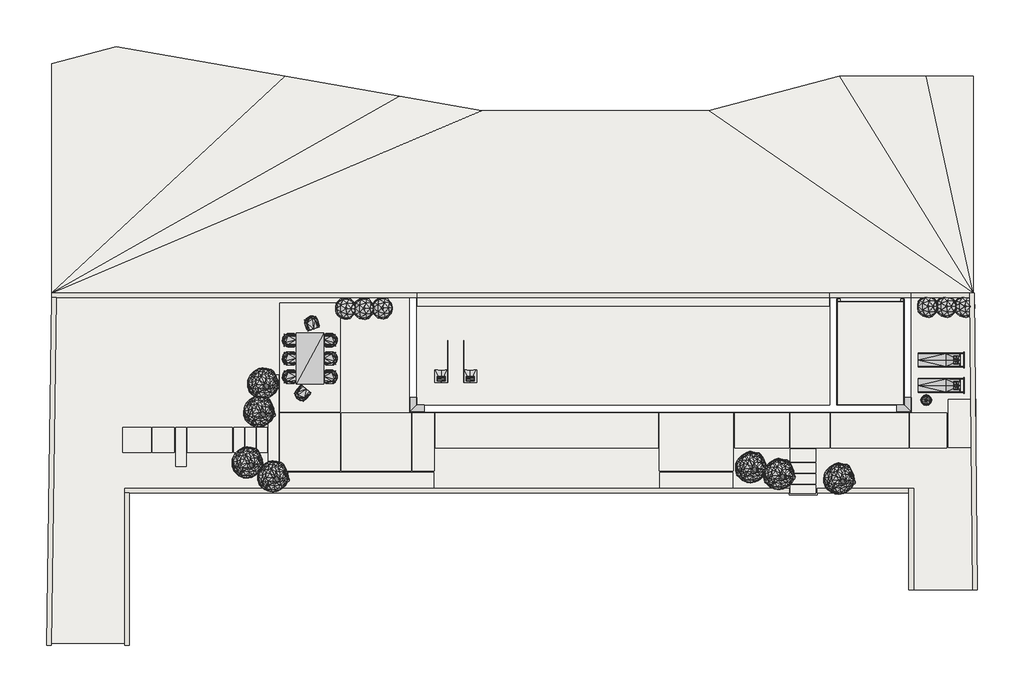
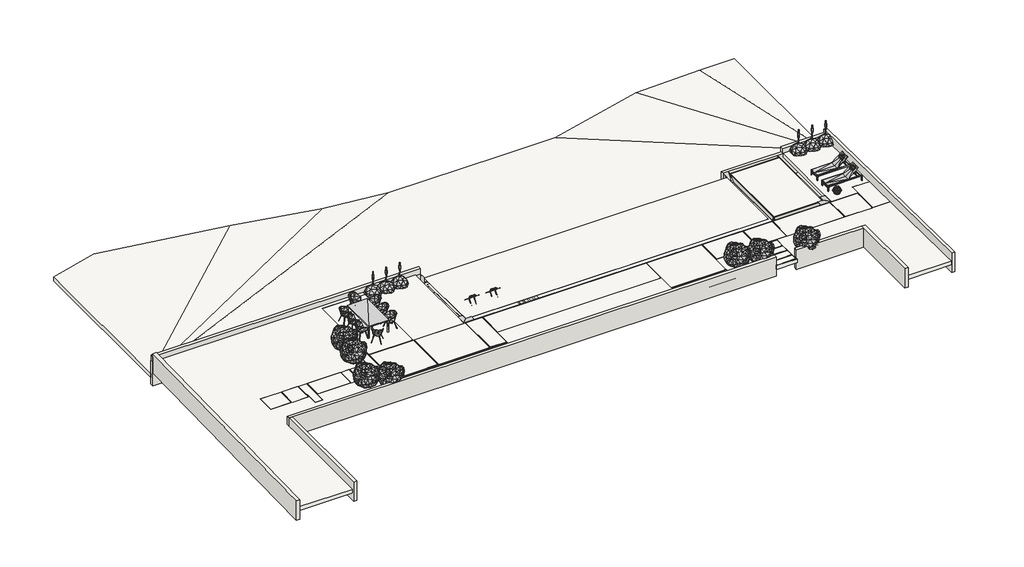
# One storey, incomplete: 27 geographic elements, 23 walls, 10 slabs, 2 proxies.
"""IFC4 building model written with IfcOpenShell, lengths in millimetres."""

from ifc_helpers import new_model, si_unit, frame, origin, place, context, project, spatial, polyline, outline, extrude, faceted_brep, transform, mapped, element, save
from components import generic_models_4be8d311, generic_models_a661fb60, geographic_element_90c88f6b, geographic_element_0c4992a3, enscape_assetdefinition_basket_enscape_assetdefinition_b8fa298a, enscape_assetdefinition_dining_table_08_enscape_2c41302c, enscape_assetdefinition_lounge_chair_09_enscape_42831ebe, enscape_assetdefinition_lounge_chair_09_enscape_dc3376f6, enscape_assetdefinition_sun_bed_03_enscape_assetdefinition_cf905068

model = new_model("IFC4")

# Units and contexts
model_context = context("Model", 3, world=origin())
ifc_project = project(units=[si_unit("LENGTHUNIT", "METRE", prefix="MILLI")], contexts=[model_context])

# Site, building, storey
site = spatial("IfcSite", under=ifc_project)
building = spatial("IfcBuilding", under=site)
storey = spatial("IfcBuildingStorey", under=building, Name="1_NPlaya", Elevation=0.0)

# Proxies
placement = place(None, origin())
generic_models_shape = generic_models_4be8d311(model_context)
element("IfcBuildingElementProxy", 1, Name="ROSA GRES_E62 : Pieza E62_Pietro_White_Anti-Slip", ObjectType="ROSA GRES_E62 : Pieza E62_Pietro_White_Anti-Slip", at=placement, inside=storey, context=model_context, shape_type="MappedRepresentation", body=[
    mapped(generic_models_shape, transform((-1514.0063414, 7472.0710771, 0.0), x_axis=(-1.0, 0.0, 0.0), y_axis=(0.0, -1.0, 0.0), z_axis=(0.0, 0.0, 1.0))),
])
generic_models_2_shape = generic_models_a661fb60(model_context)
element("IfcBuildingElementProxy", 2, Name="ROSA GRES_E62 : Pieza E62_Pietro_White_Anti-Slip", ObjectType="ROSA GRES_E62 : Pieza E62_Pietro_White_Anti-Slip", at=placement, inside=storey, context=model_context, shape_type="MappedRepresentation", body=[
    mapped(generic_models_2_shape, transform((20112.9831264, 7472.0710771, 0.0), x_axis=(1.0, 0.0, 0.0), y_axis=(0.0, 1.0, 0.0), z_axis=(0.0, 0.0, 1.0))),
])

# Geographic elements
geographic_element_shape = geographic_element_90c88f6b(model_context)
element("IfcGeographicElement", 3, ObjectType="Enscape AssetDefinition - Desert Spoon : Enscape AssetDefinition - Desert Spoon", at=placement, inside=storey, context=model_context, shape_type="MappedRepresentation", body=[
    mapped(geographic_element_shape, transform((22416.4883925, 12033.9123572, 0.0), x_axis=(1.0, 0.0, 0.0), y_axis=(0.0, 1.0, 0.0), z_axis=(0.0, 0.0, 1.0))),
])
element("IfcGeographicElement", 4, ObjectType="Enscape AssetDefinition - Desert Spoon : Enscape AssetDefinition - Desert Spoon", at=placement, inside=storey, context=model_context, shape_type="MappedRepresentation", body=[
    mapped(geographic_element_shape, transform((21616.4883925, 12033.9123572, 0.0), x_axis=(1.0, 0.0, 0.0), y_axis=(0.0, 1.0, 0.0), z_axis=(0.0, 0.0, 1.0))),
])
element("IfcGeographicElement", 5, ObjectType="Enscape AssetDefinition - Desert Spoon : Enscape AssetDefinition - Desert Spoon", at=placement, inside=storey, context=model_context, shape_type="MappedRepresentation", body=[
    mapped(geographic_element_shape, transform((20816.4883925, 12033.9123572, 0.0), x_axis=(1.0, 0.0, 0.0), y_axis=(0.0, 1.0, 0.0), z_axis=(0.0, 0.0, 1.0))),
])
element("IfcGeographicElement", 6, ObjectType="Enscape AssetDefinition - Desert Spoon : Enscape AssetDefinition - Desert Spoon", at=placement, inside=storey, context=model_context, shape_type="MappedRepresentation", body=[
    mapped(geographic_element_shape, transform((-4269.5116075, 11953.9123572, 0.0), x_axis=(1.0, 0.0, 0.0), y_axis=(0.0, 1.0, 0.0), z_axis=(0.0, 0.0, 1.0))),
])
element("IfcGeographicElement", 7, ObjectType="Enscape AssetDefinition - Desert Spoon : Enscape AssetDefinition - Desert Spoon", at=placement, inside=storey, context=model_context, shape_type="MappedRepresentation", body=[
    mapped(geographic_element_shape, transform((-3489.5116075, 11944.9123572, 0.0), x_axis=(1.0, 0.0, 0.0), y_axis=(0.0, 1.0, 0.0), z_axis=(0.0, 0.0, 1.0))),
])
element("IfcGeographicElement", 8, ObjectType="Enscape AssetDefinition - Desert Spoon : Enscape AssetDefinition - Desert Spoon", at=placement, inside=storey, context=model_context, shape_type="MappedRepresentation", body=[
    mapped(geographic_element_shape, transform((-2689.5116075, 11964.9123572, 0.0), x_axis=(1.0, 0.0, 0.0), y_axis=(0.0, 1.0, 0.0), z_axis=(0.0, 0.0, 1.0))),
])
geographic_element_2_shape = geographic_element_0c4992a3(model_context)
element("IfcGeographicElement", 9, ObjectType="Enscape AssetDefinition - Balm Bush : Enscape AssetDefinition - Balm Bush", at=placement, inside=storey, context=model_context, shape_type="MappedRepresentation", body=[
    mapped(geographic_element_2_shape, transform((-7409.5116075, 4776.5852365, 0.0), x_axis=(1.0, 0.0, 0.0), y_axis=(0.0, 1.0, 0.0), z_axis=(0.0, 0.0, 1.0))),
])
element("IfcGeographicElement", 10, ObjectType="Enscape AssetDefinition - Balm Bush : Enscape AssetDefinition - Balm Bush", at=placement, inside=storey, context=model_context, shape_type="MappedRepresentation", body=[
    mapped(geographic_element_2_shape, transform((-8509.5116075, 5376.5852365, 0.0), x_axis=(1.0, 0.0, 0.0), y_axis=(0.0, 1.0, 0.0), z_axis=(0.0, 0.0, 1.0))),
])
element("IfcGeographicElement", 11, ObjectType="Enscape AssetDefinition - Balm Bush : Enscape AssetDefinition - Balm Bush", at=placement, inside=storey, context=model_context, shape_type="MappedRepresentation", body=[
    mapped(geographic_element_2_shape, transform((-8009.5116075, 7576.5852365, 0.0), x_axis=(1.0, 0.0, 0.0), y_axis=(0.0, 1.0, 0.0), z_axis=(0.0, 0.0, 1.0))),
])
element("IfcGeographicElement", 12, ObjectType="Enscape AssetDefinition - Balm Bush : Enscape AssetDefinition - Balm Bush", at=placement, inside=storey, context=model_context, shape_type="MappedRepresentation", body=[
    mapped(geographic_element_2_shape, transform((-7843.0116075, 8785.5852365, 0.0), x_axis=(1.0, 0.0, 0.0), y_axis=(0.0, 1.0, 0.0), z_axis=(0.0, 0.0, 1.0))),
])
element("IfcGeographicElement", 13, ObjectType="Enscape AssetDefinition - Balm Bush : Enscape AssetDefinition - Balm Bush", at=placement, inside=storey, context=model_context, shape_type="MappedRepresentation", body=[
    mapped(geographic_element_2_shape, transform((13190.4883925, 5176.5852365, 0.0), x_axis=(1.0, 0.0, 0.0), y_axis=(0.0, 1.0, 0.0), z_axis=(0.0, 0.0, 1.0))),
])
element("IfcGeographicElement", 14, ObjectType="Enscape AssetDefinition - Balm Bush : Enscape AssetDefinition - Balm Bush", at=placement, inside=storey, context=model_context, shape_type="MappedRepresentation", body=[
    mapped(geographic_element_2_shape, transform((16990.4883925, 4676.5852365, 0.0), x_axis=(1.0, 0.0, 0.0), y_axis=(0.0, 1.0, 0.0), z_axis=(0.0, 0.0, 1.0))),
])
element("IfcGeographicElement", 15, ObjectType="Enscape AssetDefinition - Balm Bush : Enscape AssetDefinition - Balm Bush", at=placement, inside=storey, context=model_context, shape_type="MappedRepresentation", body=[
    mapped(geographic_element_2_shape, transform((14399.4883925, 4876.5852365, 0.0), x_axis=(1.0, 0.0, 0.0), y_axis=(0.0, 1.0, 0.0), z_axis=(0.0, 0.0, 1.0))),
])
enscape_assetdefinition_basket_enscape_assetdefinition_shape = enscape_assetdefinition_basket_enscape_assetdefinition_b8fa298a(model_context)
element("IfcGeographicElement", 16, ObjectType="Enscape AssetDefinition - Basket : Enscape AssetDefinition - Basket", at=placement, inside=storey, context=model_context, shape_type="MappedRepresentation", body=[
    mapped(enscape_assetdefinition_basket_enscape_assetdefinition_shape, transform((20758.270868, 7993.0852206, 0.0), x_axis=(1.0, 0.0, 0.0), y_axis=(0.0, 1.0, 0.0), z_axis=(0.0, 0.0, 1.0))),
])
enscape_assetdefinition_dining_table_08_enscape_shape = enscape_assetdefinition_dining_table_08_enscape_2c41302c(model_context)
element("IfcGeographicElement", 17, ObjectType="Enscape AssetDefinition - Dining Table 08 : Enscape AssetDefinition - Dining Table 08", at=placement, inside=storey, context=model_context, shape_type="MappedRepresentation", body=[
    mapped(enscape_assetdefinition_dining_table_08_enscape_shape, transform((-5809.5116075, 9789.5852365, 0.0), x_axis=(1.0, 0.0, 0.0), y_axis=(0.0, 1.0, 0.0), z_axis=(0.0, 0.0, 1.0))),
])
enscape_assetdefinition_lounge_chair_09_enscape_shape = enscape_assetdefinition_lounge_chair_09_enscape_42831ebe(model_context)
element("IfcGeographicElement", 18, ObjectType="Enscape AssetDefinition - Lounge Chair 09 : Enscape AssetDefinition - Lounge Chair 09", at=placement, inside=storey, context=model_context, shape_type="MappedRepresentation", body=[
    mapped(enscape_assetdefinition_lounge_chair_09_enscape_shape, transform((-6649.5116075, 8995.6118251, 0.0), x_axis=(0.0, 1.0, 0.0), y_axis=(-1.0, 0.0, 0.0), z_axis=(0.0, 0.0, 1.0))),
])
element("IfcGeographicElement", 19, ObjectType="Enscape AssetDefinition - Lounge Chair 09 : Enscape AssetDefinition - Lounge Chair 09", at=placement, inside=storey, context=model_context, shape_type="MappedRepresentation", body=[
    mapped(enscape_assetdefinition_lounge_chair_09_enscape_shape, transform((-6649.5116075, 10575.6118251, 0.0), x_axis=(0.0, 1.0, 0.0), y_axis=(-1.0, 0.0, 0.0), z_axis=(0.0, 0.0, 1.0))),
])
element("IfcGeographicElement", 20, ObjectType="Enscape AssetDefinition - Lounge Chair 09 : Enscape AssetDefinition - Lounge Chair 09", at=placement, inside=storey, context=model_context, shape_type="MappedRepresentation", body=[
    mapped(enscape_assetdefinition_lounge_chair_09_enscape_shape, transform((-6649.5116075, 9789.5852365, 0.0), x_axis=(0.0, 1.0, 0.0), y_axis=(-1.0, 0.0, 0.0), z_axis=(0.0, 0.0, 1.0))),
])
enscape_assetdefinition_lounge_chair_09_enscape_2_shape = enscape_assetdefinition_lounge_chair_09_enscape_dc3376f6(model_context)
element("IfcGeographicElement", 21, ObjectType="Enscape AssetDefinition - Lounge Chair 09 : Enscape AssetDefinition - Lounge Chair 09", at=placement, inside=storey, context=model_context, shape_type="MappedRepresentation", body=[
    mapped(enscape_assetdefinition_lounge_chair_09_enscape_2_shape, transform((-4969.5116075, 8995.6118251, 0.0), x_axis=(0.0, 1.0, 0.0), y_axis=(-1.0, 0.0, 0.0), z_axis=(0.0, 0.0, 1.0))),
])
element("IfcGeographicElement", 22, ObjectType="Enscape AssetDefinition - Lounge Chair 09 : Enscape AssetDefinition - Lounge Chair 09", at=placement, inside=storey, context=model_context, shape_type="MappedRepresentation", body=[
    mapped(enscape_assetdefinition_lounge_chair_09_enscape_2_shape, transform((-4969.5116075, 10575.6118251, 0.0), x_axis=(0.0, 1.0, 0.0), y_axis=(-1.0, 0.0, 0.0), z_axis=(0.0, 0.0, 1.0))),
])
element("IfcGeographicElement", 23, ObjectType="Enscape AssetDefinition - Lounge Chair 09 : Enscape AssetDefinition - Lounge Chair 09", at=placement, inside=storey, context=model_context, shape_type="MappedRepresentation", body=[
    mapped(enscape_assetdefinition_lounge_chair_09_enscape_2_shape, transform((-4969.5116075, 9789.5852365, 0.0), x_axis=(0.0, 1.0, 0.0), y_axis=(-1.0, 0.0, 0.0), z_axis=(0.0, 0.0, 1.0))),
])
element("IfcGeographicElement", 24, ObjectType="Enscape AssetDefinition - Lounge Chair 09 : Enscape AssetDefinition - Lounge Chair 09", at=placement, inside=storey, context=model_context, shape_type="MappedRepresentation", body=[
    mapped(enscape_assetdefinition_lounge_chair_09_enscape_2_shape, transform((-6116.4583733, 8304.6877272, 0.0), x_axis=(0.7568699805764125, -0.6535654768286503, 0.0), y_axis=(0.6535654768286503, 0.7568699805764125, 0.0), z_axis=(0.0, 0.0, 1.0))),
])
element("IfcGeographicElement", 25, ObjectType="Enscape AssetDefinition - Lounge Chair 09 : Enscape AssetDefinition - Lounge Chair 09", at=placement, inside=storey, context=model_context, shape_type="MappedRepresentation", body=[
    mapped(enscape_assetdefinition_lounge_chair_09_enscape_2_shape, transform((-5721.2555293, 11274.1474579, 0.0), x_axis=(-0.945518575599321, -0.3255681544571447, 0.0), y_axis=(0.3255681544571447, -0.945518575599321, 0.0), z_axis=(0.0, 0.0, 1.0))),
])
enscape_assetdefinition_sun_bed_03_enscape_assetdefinition_shape = enscape_assetdefinition_sun_bed_03_enscape_assetdefinition_cf905068(model_context)
element("IfcGeographicElement", 26, ObjectType="Enscape AssetDefinition - Sun Bed 03 : Enscape AssetDefinition - Sun Bed 03", at=placement, inside=storey, context=model_context, shape_type="MappedRepresentation", body=[
    mapped(enscape_assetdefinition_sun_bed_03_enscape_assetdefinition_shape, transform((-141.9622355, 9489.3514784, -450.0), x_axis=(-1.0, 0.0, 0.0), y_axis=(0.0, -1.0, 0.0), z_axis=(0.0, 0.0, 1.0))),
])
element("IfcGeographicElement", 27, ObjectType="Enscape AssetDefinition - Sun Bed 03 : Enscape AssetDefinition - Sun Bed 03", at=placement, inside=storey, context=model_context, shape_type="MappedRepresentation", body=[
    mapped(enscape_assetdefinition_sun_bed_03_enscape_assetdefinition_shape, transform((1098.0377645, 9489.3514784, -450.0), x_axis=(-1.0, 0.0, 0.0), y_axis=(0.0, -1.0, 0.0), z_axis=(0.0, 0.0, 1.0))),
])
element("IfcGeographicElement", 28, ObjectType="Enscape AssetDefinition - Sun Bed 03 : Enscape AssetDefinition - Sun Bed 03", at=placement, inside=storey, context=model_context, shape_type="MappedRepresentation", body=[
    mapped(enscape_assetdefinition_sun_bed_03_enscape_assetdefinition_shape, transform((21483.9357182, 9722.4417791, 0.0), x_axis=(0.0, -1.0, 0.0), y_axis=(1.0, 0.0, 0.0), z_axis=(0.0, 0.0, 1.0))),
])
element("IfcGeographicElement", 29, ObjectType="Enscape AssetDefinition - Sun Bed 03 : Enscape AssetDefinition - Sun Bed 03", at=placement, inside=storey, context=model_context, shape_type="MappedRepresentation", body=[
    mapped(enscape_assetdefinition_sun_bed_03_enscape_assetdefinition_shape, transform((21483.9357182, 8622.4417791, 0.0), x_axis=(0.0, -1.0, 0.0), y_axis=(1.0, 0.0, 0.0), z_axis=(0.0, 0.0, 1.0))),
])

# Slabs
element("IfcSlab", 30, ObjectType="GENÉRICO_HIERBA", at=placement, inside=storey, context=model_context, shape_type="SweptSolid", body=[
    extrude(outline(polyline([(20117.4883925, 12435.5852206), (22830.6157856, 12435.5852206), (22878.1438276, 8035.5852365), (21685.2129634, 8035.5852365), (21685.2129634, 5935.5852365), (22900.8276658, 5935.5852365), (22966.9890032, -189.4279496), (20114.4882541, -189.4279496), (20114.4882541, 4105.5852365), (16056.9883925, 4105.5852365), (16056.9883925, 3910.5852365), (14856.9883925, 3910.5852365), (14856.9883925, 4105.5852365), (12449.4883925, 4105.5852365), (12449.4883925, 4885.5852365), (9249.4883925, 4885.5852365), (9249.4883925, 4085.5852365), (-450.5116075, 4085.5852365), (-450.5116075, 4885.5852365), (-7100.5116075, 4885.5852365), (-7100.5116075, 4185.5852365), (-13800.5124193, 4185.5852365), (-13800.5124193, -2489.4148171), (-16961.4638816, -2489.4148171), (-16810.7319763, 12410.5852365), (-1518.0116075, 12410.5852365), (-1518.0116075, 7468.0852365), (20117.4883925, 7468.0852365), (20117.4883925, 12435.5852206)]), holes=[polyline([(21635.2129634, 7435.5852365), (20049.4883925, 7435.5852365), (20049.4883925, 5935.5852365), (21635.2129634, 5935.5852365), (21635.2129634, 7435.5852365)]), polyline([(19999.4883925, 7435.5852365), (16649.4883925, 7435.5852365), (16649.4883925, 5935.5852365), (19999.4883925, 5935.5852365), (19999.4883925, 7435.5852365)]), polyline([(14906.9883925, 7435.5852365), (14906.9883925, 5935.5852365), (16599.4883925, 5935.5852365), (16599.4883925, 7435.5852365), (14906.9883925, 7435.5852365)]), polyline([(12499.4883925, 7435.5852365), (12499.4883925, 5935.5852365), (14856.9883925, 5935.5852365), (14856.9883925, 7435.5852365), (12499.4883925, 7435.5852365)]), polyline([(12449.4883925, 7435.5852365), (9249.4883925, 7435.5852365), (9249.4883925, 4935.5852365), (12449.4883925, 4935.5852365), (12449.4883925, 7435.5852365)]), polyline([(9199.4883925, 5935.5852365), (9199.4883925, 7435.5852365), (-400.5116075, 7435.5852365), (-400.5116075, 5935.5852365), (9199.4883925, 5935.5852365)]), polyline([(-450.5116075, 7435.5852365), (-1400.5116075, 7435.5852365), (-1400.5116075, 4935.5852365), (-450.5116075, 4935.5852365), (-450.5116075, 7435.5852365)]), polyline([(-4450.5116075, 7435.5852365), (-4450.5116075, 4935.5852365), (-1450.5116075, 4935.5852365), (-1450.5116075, 7435.5852365), (-4450.5116075, 7435.5852365)]), polyline([(-7100.5116075, 7435.5852365), (-7100.5116075, 4935.5852365), (-4500.5116075, 4935.5852365), (-4500.5116075, 7435.5852365), (-7100.5116075, 7435.5852365)]), polyline([(-7150.5116075, 9085.5852365), (-7600.5116075, 9085.5852365), (-7600.5116075, 5335.5852365), (-7150.5116075, 5335.5852365), (-7150.5116075, 9085.5852365)]), polyline([(-4500.5116075, 12185.5852365), (-7100.5116075, 12185.5852365), (-7100.5116075, 7485.5852365), (-4500.5116075, 7485.5852365), (-4500.5116075, 12185.5852365)]), polyline([(-13872.3799331, 6810.5852365), (-13872.3799331, 5735.5852365), (-12650.5116075, 5735.5852365), (-12650.5116075, 6810.5852365), (-13872.3799331, 6810.5852365)]), polyline([(-12600.5116075, 5735.5852365), (-11650.5116075, 5735.5852365), (-11650.5116075, 6810.5852365), (-12600.5116075, 6810.5852365), (-12600.5116075, 5735.5852365)]), polyline([(-11600.5116075, 6810.5852365), (-11600.5116075, 5135.5852365), (-11150.5116075, 5135.5852365), (-11150.5116075, 6810.5852365), (-11600.5116075, 6810.5852365)]), polyline([(-11100.5116075, 6810.5852365), (-11100.5116075, 5735.5852365), (-9150.5116075, 5735.5852365), (-9150.5116075, 6810.5852365), (-11100.5116075, 6810.5852365)]), polyline([(-9100.5116075, 5735.5852365), (-8650.5116075, 5735.5852365), (-8650.5116075, 6810.5852365), (-9100.5116075, 6810.5852365), (-9100.5116075, 5735.5852365)]), polyline([(-8600.5116075, 6810.5852365), (-8600.5116075, 5735.5852365), (-8150.5116075, 5735.5852365), (-8150.5116075, 6810.5852365), (-8600.5116075, 6810.5852365)]), polyline([(-7650.5116075, 5735.5852365), (-7650.5116075, 6810.5852365), (-8100.5116075, 6810.5852365), (-8100.5116075, 5735.5852365), (-7650.5116075, 5735.5852365)]), polyline([(16006.9883925, 5879.2855999), (14906.9883925, 5879.2855999), (14906.9883925, 5335.5852365), (16006.9883925, 5335.5852365), (16006.9883925, 5879.2855999)]), polyline([(14906.9883925, 4860.5852365), (16006.9883925, 4860.5852365), (16006.9883925, 5285.5852365), (14906.9883925, 5285.5852365), (14906.9883925, 4860.5852365)]), polyline([(16006.9883925, 4385.5852365), (16006.9883925, 4810.5852365), (14906.9883925, 4810.5852365), (14906.9883925, 4385.5852365), (16006.9883925, 4385.5852365)]), polyline([(16006.9883925, 3965.5852365), (16006.9883925, 4335.5852365), (14906.9883925, 4335.5852365), (14906.9883925, 3965.5852365), (16006.9883925, 3965.5852365)])]), frame((0.0, 0.0, -231.0), z_axis=(0.0, 0.0, 1.0), x_axis=(1.0, 0.0, 0.0)), (0.0, 0.0, 1.0), 231.0),
])
element("IfcSlab", 31, ObjectType="Pieza 316_Patrón 1/3_Pietro_White_Anti-Slip", at=placement, inside=storey, context=model_context, shape_type="SweptSolid", body=[
    extrude(outline(polyline([(-4500.5116075, 7435.5852365), (-4500.5116075, 4935.5852365), (-7100.5116075, 4935.5852365), (-7100.5116075, 7435.5852365), (-4500.5116075, 7435.5852365)])), frame((0.0, 0.0, -9.0), z_axis=(0.0, 0.0, 1.0), x_axis=(1.0, 0.0, 0.0)), (0.0, 0.0, 1.0), 9.0),
    extrude(outline(polyline([(-1450.5116075, 4935.5852365), (-4450.5116075, 4935.5852365), (-4450.5116075, 7435.5852365), (-1450.5116075, 7435.5852365), (-1450.5116075, 4935.5852365)])), frame((0.0, 0.0, -9.0), z_axis=(0.0, 0.0, 1.0), x_axis=(1.0, 0.0, 0.0)), (0.0, 0.0, 1.0), 9.0),
    extrude(outline(polyline([(-450.5116075, 7435.5852365), (-450.5116075, 4935.5852365), (-1400.5116075, 4935.5852365), (-1400.5116075, 7435.5852365), (-450.5116075, 7435.5852365)])), frame((0.0, 0.0, -9.0), z_axis=(0.0, 0.0, 1.0), x_axis=(1.0, 0.0, 0.0)), (0.0, 0.0, 1.0), 9.0),
    extrude(outline(polyline([(9199.4883925, 7435.5852365), (9199.4883925, 5935.5852365), (-400.5116075, 5935.5852365), (-400.5116075, 7435.5852365), (9199.4883925, 7435.5852365)])), frame((0.0, 0.0, -9.0), z_axis=(0.0, 0.0, 1.0), x_axis=(1.0, 0.0, 0.0)), (0.0, 0.0, 1.0), 9.0),
    extrude(outline(polyline([(12449.4883925, 4935.5852365), (9249.4883925, 4935.5852365), (9249.4883925, 7435.5852365), (12449.4883925, 7435.5852365), (12449.4883925, 4935.5852365)])), frame((0.0, 0.0, -9.0), z_axis=(0.0, 0.0, 1.0), x_axis=(1.0, 0.0, 0.0)), (0.0, 0.0, 1.0), 9.0),
    extrude(outline(polyline([(14856.9883925, 7435.5852365), (14856.9883925, 5935.5852365), (12499.4883925, 5935.5852365), (12499.4883925, 7435.5852365), (14856.9883925, 7435.5852365)])), frame((0.0, 0.0, -9.0), z_axis=(0.0, 0.0, 1.0), x_axis=(1.0, 0.0, 0.0)), (0.0, 0.0, 1.0), 9.0),
    extrude(outline(polyline([(14906.9883925, 7435.5852365), (16599.4883925, 7435.5852365), (16599.4883925, 5935.5852365), (14906.9883925, 5935.5852365), (14906.9883925, 7435.5852365)])), frame((0.0, 0.0, -9.0), z_axis=(0.0, 0.0, 1.0), x_axis=(1.0, 0.0, 0.0)), (0.0, 0.0, 1.0), 9.0),
    extrude(outline(polyline([(19999.4883925, 7435.5852365), (19999.4883925, 5935.5852365), (16649.4883925, 5935.5852365), (16649.4883925, 7435.5852365), (19999.4883925, 7435.5852365)])), frame((0.0, 0.0, -9.0), z_axis=(0.0, 0.0, 1.0), x_axis=(1.0, 0.0, 0.0)), (0.0, 0.0, 1.0), 9.0),
    extrude(outline(polyline([(21635.2129634, 7435.5852365), (21635.2129634, 5935.5852365), (20049.4883925, 5935.5852365), (20049.4883925, 7435.5852365), (21635.2129634, 7435.5852365)])), frame((0.0, 0.0, -9.0), z_axis=(0.0, 0.0, 1.0), x_axis=(1.0, 0.0, 0.0)), (0.0, 0.0, 1.0), 9.0),
    extrude(outline(polyline([(22900.8276658, 8035.5852365), (22900.8276658, 5935.5852365), (21685.2129634, 5935.5852365), (21685.2129634, 8035.5852365), (22900.8276658, 8035.5852365)])), frame((0.0, 0.0, -9.0), z_axis=(0.0, 0.0, 1.0), x_axis=(1.0, 0.0, 0.0)), (0.0, 0.0, 1.0), 9.0),
    extrude(outline(polyline([(16006.9883925, 5879.2855999), (16006.9883925, 5335.5852365), (14906.9883925, 5335.5852365), (14906.9883925, 5879.2855999), (16006.9883925, 5879.2855999)])), frame((0.0, 0.0, -9.0), z_axis=(0.0, 0.0, 1.0), x_axis=(1.0, 0.0, 0.0)), (0.0, 0.0, 1.0), 9.0),
    extrude(outline(polyline([(16006.9883925, 5285.5852365), (16006.9883925, 4860.5852365), (14906.9883925, 4860.5852365), (14906.9883925, 5285.5852365), (16006.9883925, 5285.5852365)])), frame((0.0, 0.0, -9.0), z_axis=(0.0, 0.0, 1.0), x_axis=(1.0, 0.0, 0.0)), (0.0, 0.0, 1.0), 9.0),
    extrude(outline(polyline([(16006.9883925, 4810.5852365), (16006.9883925, 4385.5852365), (14906.9883925, 4385.5852365), (14906.9883925, 4810.5852365), (16006.9883925, 4810.5852365)])), frame((0.0, 0.0, -9.0), z_axis=(0.0, 0.0, 1.0), x_axis=(1.0, 0.0, 0.0)), (0.0, 0.0, 1.0), 9.0),
    extrude(outline(polyline([(16006.9883925, 4335.5852365), (16006.9883925, 3965.5852365), (14906.9883925, 3965.5852365), (14906.9883925, 4335.5852365), (16006.9883925, 4335.5852365)])), frame((0.0, 0.0, -9.0), z_axis=(0.0, 0.0, 1.0), x_axis=(1.0, 0.0, 0.0)), (0.0, 0.0, 1.0), 9.0),
    extrude(outline(polyline([(12449.4883925, 4885.5852365), (12449.4883925, 3985.5852365), (9249.4883925, 3985.5852365), (9249.4883925, 4885.5852365), (12449.4883925, 4885.5852365)])), frame((0.0, 0.0, -9.0), z_axis=(0.0, 0.0, 1.0), x_axis=(1.0, 0.0, 0.0)), (0.0, 0.0, 1.0), 9.0),
    extrude(outline(polyline([(-450.5116075, 4885.5852365), (-450.5116075, 3985.5852365), (-7100.5116075, 3985.5852365), (-7100.5116075, 4885.5852365), (-450.5116075, 4885.5852365)])), frame((0.0, 0.0, -9.0), z_axis=(0.0, 0.0, 1.0), x_axis=(1.0, 0.0, 0.0)), (0.0, 0.0, 1.0), 9.0),
    extrude(outline(polyline([(-4500.5116075, 12185.5852365), (-4500.5116075, 7485.5852365), (-7100.5116075, 7485.5852365), (-7100.5116075, 12185.5852365), (-4500.5116075, 12185.5852365)])), frame((0.0, 0.0, -9.0), z_axis=(0.0, 0.0, 1.0), x_axis=(1.0, 0.0, 0.0)), (0.0, 0.0, 1.0), 9.0),
    extrude(outline(polyline([(-7600.5116075, 9085.5852365), (-7150.5116075, 9085.5852365), (-7150.5116075, 5335.5852365), (-7600.5116075, 5335.5852365), (-7600.5116075, 9085.5852365)])), frame((0.0, 0.0, -9.0), z_axis=(0.0, 0.0, 1.0), x_axis=(1.0, 0.0, 0.0)), (0.0, 0.0, 1.0), 9.0),
    extrude(outline(polyline([(-7650.5116075, 6810.5852365), (-7650.5116075, 5735.5852365), (-8100.5116075, 5735.5852365), (-8100.5116075, 6810.5852365), (-7650.5116075, 6810.5852365)])), frame((0.0, 0.0, -9.0), z_axis=(0.0, 0.0, 1.0), x_axis=(1.0, 0.0, 0.0)), (0.0, 0.0, 1.0), 9.0),
    extrude(outline(polyline([(-8150.5116075, 6810.5852365), (-8150.5116075, 5735.5852365), (-8600.5116075, 5735.5852365), (-8600.5116075, 6810.5852365), (-8150.5116075, 6810.5852365)])), frame((0.0, 0.0, -9.0), z_axis=(0.0, 0.0, 1.0), x_axis=(1.0, 0.0, 0.0)), (0.0, 0.0, 1.0), 9.0),
    extrude(outline(polyline([(-9100.5116075, 5735.5852365), (-9100.5116075, 6810.5852365), (-8650.5116075, 6810.5852365), (-8650.5116075, 5735.5852365), (-9100.5116075, 5735.5852365)])), frame((0.0, 0.0, -9.0), z_axis=(0.0, 0.0, 1.0), x_axis=(1.0, 0.0, 0.0)), (0.0, 0.0, 1.0), 9.0),
    extrude(outline(polyline([(-9150.5116075, 6810.5852365), (-9150.5116075, 5735.5852365), (-11100.5116075, 5735.5852365), (-11100.5116075, 6810.5852365), (-9150.5116075, 6810.5852365)])), frame((0.0, 0.0, -9.0), z_axis=(0.0, 0.0, 1.0), x_axis=(1.0, 0.0, 0.0)), (0.0, 0.0, 1.0), 9.0),
    extrude(outline(polyline([(-11150.5116075, 6810.5852365), (-11150.5116075, 5135.5852365), (-11600.5116075, 5135.5852365), (-11600.5116075, 6810.5852365), (-11150.5116075, 6810.5852365)])), frame((0.0, 0.0, -9.0), z_axis=(0.0, 0.0, 1.0), x_axis=(1.0, 0.0, 0.0)), (0.0, 0.0, 1.0), 9.0),
    extrude(outline(polyline([(-12650.5116075, 6810.5852365), (-12650.5116075, 5735.5852365), (-13872.3799331, 5735.5852365), (-13872.3799331, 6810.5852365), (-12650.5116075, 6810.5852365)])), frame((0.0, 0.0, -9.0), z_axis=(0.0, 0.0, 1.0), x_axis=(1.0, 0.0, 0.0)), (0.0, 0.0, 1.0), 9.0),
    extrude(outline(polyline([(-11650.5116075, 6810.5852365), (-11650.5116075, 5735.5852365), (-12600.5116075, 5735.5852365), (-12600.5116075, 6810.5852365), (-11650.5116075, 6810.5852365)])), frame((0.0, 0.0, -9.0), z_axis=(0.0, 0.0, 1.0), x_axis=(1.0, 0.0, 0.0)), (0.0, 0.0, 1.0), 9.0),
])
element("IfcSlab", 32, ObjectType="Pieza 316_Patrón 1/3_Pietro_White_Anti-Slip", at=placement, inside=storey, context=model_context, shape_type="SweptSolid", body=[
    extrude(outline(polyline([(1983.9883925, 11755.5586479), (1983.9883925, 7815.6118251), (-1170.485019, 7815.6118251), (-1170.485019, 11755.5586479), (1983.9883925, 11755.5586479)])), frame((0.0, 0.0, -309.0), z_axis=(0.0, 0.0, 1.0), x_axis=(1.0, 0.0, 0.0)), (0.0, 0.0, 1.0), 9.0),
])
element("IfcSlab", 33, ObjectType="Pieza 316_Patrón 1/3_Pietro_White_Anti-Slip", at=placement, inside=storey, context=model_context, shape_type="SweptSolid", body=[
    extrude(outline(polyline([(2983.9883925, 11785.5852365), (2983.9883925, 7785.5852365), (2799.4883925, 7785.5852365), (2799.4883925, 11785.5852365), (2983.9883925, 11785.5852365)])), frame((0.0, 0.0, -909.0), z_axis=(0.0, 0.0, 1.0), x_axis=(1.0, 0.0, 0.0)), (0.0, 0.0, 1.0), 9.0),
])
element("IfcSlab", 34, ObjectType="Pieza 316_Patrón 1/3_Pietro_White_Anti-Slip", at=placement, inside=storey, context=model_context, shape_type="SweptSolid", body=[
    extrude(outline(polyline([(2483.9649492, 11785.5852365), (2483.9649492, 7785.5852365), (2299.4883925, 7785.5852365), (2299.4883925, 11785.5852365), (2483.9649492, 11785.5852365)])), frame((0.0, 0.0, -609.0), z_axis=(0.0, 0.0, 1.0), x_axis=(1.0, 0.0, 0.0)), (0.0, 0.0, 1.0), 9.0),
])
element("IfcSlab", 35, ObjectType="Pieza 316_Patrón 1/3_Pietro_White_Anti-Slip", at=placement, inside=storey, context=model_context, shape_type="SweptSolid", body=[
    extrude(outline(polyline([(19661.4913366, 12096.9631648), (19661.4913366, 7924.774778), (17063.3935432, 7924.774778), (17063.3935432, 12096.9631648), (19661.4913366, 12096.9631648)]), holes=[polyline([(19198.270868, 11639.9602206), (17520.3964874, 11639.9602206), (17520.3964874, 8376.1527221), (19198.270868, 8376.1527221), (19198.270868, 11639.9602206)])]), frame((0.0, 0.0, -559.0), z_axis=(0.0, 0.0, 1.0), x_axis=(1.0, 0.0, 0.0)), (0.0, 0.0, 1.0), 9.0),
])
element("IfcSlab", 36, ObjectType="Pieza 316_Patrón 1/3_Pietro_White_Anti-Slip", at=placement, inside=storey, context=model_context, shape_type="SweptSolid", body=[
    extrude(outline(polyline([(19230.7230046, 11672.4123572), (19230.7230046, 8344.3255855), (17487.9443508, 8344.3255855), (17487.9443508, 11672.4123572), (19230.7230046, 11672.4123572)])), frame((0.0, 0.0, -1009.0), z_axis=(0.0, 0.0, 1.0), x_axis=(1.0, 0.0, 0.0)), (0.0, 0.0, 1.0), 9.0),
])
element("IfcSlab", 37, ObjectType="GENÉRICO_ARENA", at=placement, inside=storey, context=model_context, shape_type="Brep", body=[
    faceted_brep([(22777.1253533, 12611.5251315, -1081.0), (22777.1253533, 12611.5251315, -850.0), (-16946.0773021, 12611.5251315, -850.0), (-16946.0773021, 12611.5251315, -1081.0), (-16946.0773021, 22500.5978496, -850.0), (-16946.0773021, 22500.5978496, -1081.0), (22777.1253533, 21970.9679868, -1081.0), (22777.1253533, 21970.9679868, -850.0), (-14164.5442885, 23245.9073743, -850.0), (-14164.5442885, 23245.9073743, -1081.0), (-6876.9669162, 21960.9108596, -850.0), (-6876.9669162, 21960.9108596, -1081.0), (-1952.9281511, 21092.6699713, -974.152795), (-1952.9281511, 21092.6699713, -1205.152795), (1592.3797597, 20467.5365317, -850.0), (1592.3797597, 20467.5365317, -1081.0), (8192.3797597, 20467.5365317, -850.0), (8192.3797597, 20467.5365317, -1081.0), (11392.3797597, 20467.5365317, -850.0), (11392.3797597, 20467.5365317, -1081.0), (17003.2623361, 21970.9679868, -932.6575138), (17003.2623361, 21970.9679868, -1163.6575138), (20751.6941926, 21970.9679868, -850.0), (20751.6941926, 21970.9679868, -1081.0)], [[[0, 1, 2, 3]], [[3, 2, 4, 5]], [[6, 7, 1, 0]], [[5, 4, 8, 9]], [[9, 8, 10, 11]], [[11, 10, 12, 13]], [[13, 12, 14, 15]], [[15, 14, 16, 17]], [[17, 16, 18, 19]], [[19, 18, 20, 21]], [[21, 20, 22, 23]], [[23, 22, 7, 6]], [[7, 22, 1]], [[6, 0, 23]], [[14, 12, 2]], [[12, 10, 2]], [[10, 8, 4, 2]], [[15, 3, 13]], [[13, 3, 11]], [[11, 3, 5, 9]], [[18, 16, 14, 2, 1]], [[20, 18, 1]], [[22, 20, 1]], [[19, 0, 3, 15, 17]], [[21, 0, 19]], [[23, 0, 21]]]),
])
element("IfcSlab", 38, ObjectType="GENÉRICO_AGUA", at=placement, inside=storey, context=model_context, shape_type="SweptSolid", body=[
    extrude(outline(polyline([(16601.9883925, 12025.0880815), (16601.9883925, 7785.5852365), (-1200.5116075, 7785.5852365), (-1200.5116075, 12025.0880815), (16601.9883925, 12025.0880815)])), frame((0.0, 0.0, -51.0), z_axis=(0.0, 0.0, 1.0), x_axis=(1.0, 0.0, 0.0)), (0.0, 0.0, 1.0), 1.0),
    extrude(outline(polyline([(19810.2887715, 12235.1051769), (19810.2887715, 7774.0593078), (16916.4883925, 7774.0593078), (16916.4883925, 12235.1051769), (19810.2887715, 12235.1051769)])), frame((0.0, 0.0, -51.0), z_axis=(0.0, 0.0, 1.0), x_axis=(1.0, 0.0, 0.0)), (0.0, 0.0, 1.0), 1.0),
])
element("IfcSlab", 39, ObjectType="GENÉRICO_AGUA", at=placement, inside=storey, context=model_context, shape_type="SweptSolid", body=[
    extrude(outline(polyline([(16599.4883925, 12402.5251315), (16599.4883925, 12033.9123572), (-1200.5116075, 12033.9123572), (-1200.5116075, 12402.5251315), (16599.4883925, 12402.5251315)])), frame((0.0, 0.0, -701.0), z_axis=(0.0, 0.0, 1.0), x_axis=(1.0, 0.0, 0.0)), (0.0, 0.0, 1.0), 1.0),
])

# Walls
element("IfcWall", 40, ObjectType="GENÉRICO_MURO BASE 20 cm", at=placement, inside=storey, context=model_context, shape_type="SweptSolid", body=[
    extrude(outline(polyline([(-16935.9886711, 12610.5852365), (-1200.5116075, 12610.5852365), (-1200.5116075, 12410.5852365), (-16938.9692743, 12410.5852365), (-16935.9886711, 12610.5852365)])), frame((0.0, 0.0, -49.1675374), z_axis=(0.0, 0.0, 1.0), x_axis=(1.0, 0.0, 0.0)), (0.0, 0.0, 1.0), 350.0),
])
element("IfcWall", 41, ObjectType="Pieza 316_Patrón 1/3_Pietro_White_Anti-Slip", at=placement, inside=storey, context=model_context, shape_type="SweptSolid", body=[
    extrude(outline(polyline([(3790.4883925, 7785.5852365), (3790.4883925, 11785.5852365), (3799.4883925, 11785.5852365), (3799.4883925, 7785.5852365), (3790.4883925, 7785.5852365)])), frame((0.0, 0.0, -1469.9734114), z_axis=(0.0, 0.0, 1.0), x_axis=(1.0, 0.0, 0.0)), (0.0, 0.0, 1.0), 233.399532),
])
element("IfcWall", 42, ObjectType="Pieza 316_Patrón 1/3_Pietro_White_Anti-Slip", at=placement, inside=storey, context=model_context, shape_type="SweptSolid", body=[
    extrude(outline(polyline([(3290.4883925, 7785.5852365), (3290.4883925, 11785.5852365), (3299.4883925, 11785.5852365), (3299.4883925, 7785.5852365), (3290.4883925, 7785.5852365)])), frame((0.0, 0.0, -1169.9734114), z_axis=(0.0, 0.0, 1.0), x_axis=(1.0, 0.0, 0.0)), (0.0, 0.0, 1.0), 232.3681087),
])
element("IfcWall", 43, ObjectType="Pieza 316_Patrón 1/3_Pietro_White_Anti-Slip", at=placement, inside=storey, context=model_context, shape_type="SweptSolid", body=[
    extrude(outline(polyline([(2790.4883925, 7785.5852365), (2790.4883925, 11785.5852365), (2799.4883925, 11785.5852365), (2799.4883925, 7785.5852365), (2790.4883925, 7785.5852365)])), frame((0.0, 0.0, -869.9734114), z_axis=(0.0, 0.0, 1.0), x_axis=(1.0, 0.0, 0.0)), (0.0, 0.0, 1.0), 231.4871558),
])
element("IfcWall", 44, ObjectType="Pieza 316_Patrón 1/3_Pietro_White_Anti-Slip", at=placement, inside=storey, context=model_context, shape_type="SweptSolid", body=[
    extrude(outline(polyline([(2290.4883925, 7785.5852365), (2290.4883925, 11785.5852365), (2299.4883925, 11785.5852365), (2299.4883925, 7785.5852365), (2290.4883925, 7785.5852365)])), frame((0.0, 0.0, -576.5358849), z_axis=(0.0, 0.0, 1.0), x_axis=(1.0, 0.0, 0.0)), (0.0, 0.0, 1.0), 245.5600671),
])
element("IfcWall", 45, ObjectType="Pieza 316_Patrón 1/3_Pietro_White_Anti-Slip", at=placement, inside=storey, context=model_context, shape_type="SweptSolid", body=[
    extrude(outline(polyline([(-529.9048125, 17058.0090539), (-12.087635, 16919.2603594), (-12.087635, 16909.9428738), (-529.9048125, 17048.6915683), (-529.9048125, 17058.0090539)])), frame((0.0, 7785.5852365, 0.0), z_axis=(0.0, 1.0, 0.0), x_axis=(0.0, 0.0, 1.0)), (0.0, 0.0, 1.0), 4570.0),
])
element("IfcWall", 46, ObjectType="Pieza 316_Patrón 1/3_Pietro_White_Anti-Slip", at=placement, inside=storey, context=model_context, shape_type="SweptSolid", body=[
    extrude(outline(polyline([(12103.8017201, -524.4781643), (12235.1051769, -34.4469924), (12244.4226625, -34.4469924), (12113.1192057, -524.4781643), (12103.8017201, -524.4781643)])), frame((16916.4883925, 0.0, 0.0), z_axis=(1.0, 0.0, 0.0), x_axis=(0.0, 1.0, 0.0)), (0.0, 0.0, 1.0), 2883.0),
])
element("IfcWall", 47, ObjectType="Pieza 316_Patrón 1/3_Pietro_White_Anti-Slip", at=placement, inside=storey, context=model_context, shape_type="SweptSolid", body=[
    extrude(outline(polyline([(-524.4781643, 19668.3298919), (-524.4781643, 19677.6473775), (-35.0, 19808.8026564), (-35.0, 19799.4851707), (-524.4781643, 19668.3298919)])), frame((0.0, 7776.8989004, 0.0), z_axis=(0.0, 1.0, 0.0), x_axis=(0.0, 0.0, 1.0)), (0.0, 0.0, 1.0), 4578.6863361),
])
element("IfcWall", 48, ObjectType="Pieza 316_Patrón 1/3_Pietro_White_Anti-Slip", at=placement, inside=storey, context=model_context, shape_type="SweptSolid", body=[
    extrude(outline(polyline([(7908.6187371, -524.4781643), (7777.4634582, -35.0), (7786.7809439, -35.0), (7917.9362227, -524.4781643), (7908.6187371, -524.4781643)])), frame((16895.420249, 0.0, 0.0), z_axis=(1.0, 0.0, 0.0), x_axis=(0.0, 1.0, 0.0)), (0.0, 0.0, 1.0), 2910.0),
])
element("IfcWall", 49, ObjectType="Pieza 316_Patrón 1/3_Pietro_White_Anti-Slip", at=placement, inside=storey, context=model_context, shape_type="Brep", body=[
    faceted_brep([(19167.8456175, 8407.2029726, -590.6131618), (19277.5404902, 8297.5080999, -1000.0), (19277.5404902, 11719.2298429, -1000.0), (19167.8456175, 11609.5349702, -590.6131618), (19268.2230046, 8297.5080999, -1000.0), (19158.5281319, 8407.2029726, -590.6131618), (19158.5281319, 11609.5349702, -590.6131618), (19268.2230046, 11719.2298429, -1000.0), (19268.2230046, 11709.9123572, -1000.0), (19268.2230046, 8306.8255855, -1000.0)], [[[0, 1, 2, 3]], [[4, 5, 6, 7, 8, 9]], [[1, 4, 9, 8, 7, 2]], [[5, 0, 3, 6]], [[7, 6, 3, 2]], [[4, 1, 0, 5]]]),
])
element("IfcWall", 50, ObjectType="Pieza 316_Patrón 1/3_Pietro_White_Anti-Slip", at=placement, inside=storey, context=model_context, shape_type="Brep", body=[
    faceted_brep([(19158.3638357, 11609.370674, -590.0), (19158.5281319, 11609.5349702, -590.6131618), (19268.2230046, 11719.2298429, -1000.0), (17441.1268651, 11719.2298429, -1000.0), (17550.986034, 11609.370674, -590.0), (19268.2230046, 11709.9123572, -1000.0), (19158.3638357, 11600.0531883, -590.0), (17550.986034, 11600.0531883, -590.0), (17550.6453455, 11600.3938769, -591.2714671), (17441.1268651, 11709.9123572, -1000.0), (17450.4443508, 11709.9123572, -1000.0)], [[[0, 1, 2, 3, 4]], [[5, 6, 7, 8, 9, 10]], [[2, 5, 10, 9, 3]], [[6, 0, 4, 7]], [[9, 8, 7, 4, 3]], [[5, 2, 1, 0, 6]]]),
])
element("IfcWall", 51, ObjectType="Pieza 316_Patrón 1/3_Pietro_White_Anti-Slip", at=placement, inside=storey, context=model_context, shape_type="Brep", body=[
    faceted_brep([(17550.6453455, 11600.3938769, -591.2714671), (17441.1268651, 11709.9123572, -1000.0), (17441.1268651, 8297.5080999, -1000.0), (17550.6453455, 8407.0265802, -591.2714671), (17450.4443508, 11709.9123572, -1000.0), (17559.9628311, 11600.3938769, -591.2714671), (17559.9628311, 8407.0265802, -591.2714671), (17450.4443508, 8297.5080999, -1000.0), (17450.4443508, 8306.8255855, -1000.0)], [[[0, 1, 2, 3]], [[4, 5, 6, 7, 8]], [[1, 4, 8, 7, 2]], [[5, 0, 3, 6]], [[7, 6, 3, 2]], [[4, 1, 0, 5]]]),
])
element("IfcWall", 52, ObjectType="Pieza 316_Patrón 1/3_Pietro_White_Anti-Slip", at=placement, inside=storey, context=model_context, shape_type="Brep", body=[
    faceted_brep([(17560.2713758, 8407.3351249, -590.1199627), (17559.9628311, 8407.0265802, -591.2714671), (17450.4443508, 8297.5080999, -1000.0), (19268.2230046, 8297.5080999, -1000.0), (19158.5281319, 8407.2029726, -590.6131618), (19158.3959796, 8407.3351249, -590.1199627), (17450.4443508, 8306.8255855, -1000.0), (17560.2713758, 8416.6526105, -590.1199627), (19158.3959796, 8416.6526105, -590.1199627), (19268.2230046, 8306.8255855, -1000.0)], [[[0, 1, 2, 3, 4, 5]], [[6, 7, 8, 9]], [[2, 6, 9, 3]], [[7, 0, 5, 8]], [[9, 8, 5, 4, 3]], [[6, 2, 1, 0, 7]]]),
])
element("IfcWall", 53, ObjectType="GENÉRICO_MURO BASE 20 cm", at=placement, inside=storey, context=model_context, shape_type="Brep", body=[
    faceted_brep([(20214.4882541, -189.4279496, -699.9014507), (20214.4882541, 4185.5852365, -699.9014507), (20214.4882541, 4185.5852365, 500.0), (20214.4882541, -189.4279496, 500.0), (20014.4882541, -189.4279496, -699.9014507), (20014.4882541, -189.4279496, 500.0), (20014.4882541, 3985.5852365, 500.0), (20014.4882541, 4185.5852365, 500.0), (20014.4882541, 4185.5852365, -699.9014507), (20014.4882541, 3985.5852365, -699.9014507)], [[[0, 1, 2, 3]], [[4, 5, 6, 7, 8, 9]], [[1, 0, 4, 9, 8]], [[3, 2, 7, 6, 5]], [[0, 3, 5, 4]], [[2, 1, 8, 7]]]),
])
element("IfcWall", 54, ObjectType="GENÉRICO_MURO BASE 20 cm", at=placement, inside=storey, context=model_context, shape_type="SweptSolid", body=[
    extrude(outline(polyline([(16056.9883925, 4185.5852365), (20014.4882541, 4185.5852365), (20014.4882541, 3985.5852365), (16056.9883925, 3985.5852365), (16056.9883925, 4185.5852365)])), frame((0.0, 0.0, -699.9014507), z_axis=(0.0, 0.0, 1.0), x_axis=(1.0, 0.0, 0.0)), (0.0, 0.0, 1.0), 1199.9014507),
])
element("IfcWall", 55, ObjectType="GENÉRICO_MURO BASE 20 cm", at=placement, inside=storey, context=model_context, shape_type="Brep", body=[
    faceted_brep([(14856.9883925, 4185.5852365, -699.9014507), (-13800.5124193, 4185.5852365, -699.9014507), (-13800.5124193, 4185.5852365, 500.0), (14856.9883925, 4185.5852365, 500.0), (14856.9883925, 3985.5852365, -699.9014507), (14856.9883925, 3985.5852365, 500.0), (-13600.5124193, 3985.5852365, 500.0), (-13800.5124193, 3985.5852365, 500.0), (-13800.5124193, 3985.5852365, -699.9014507), (-13600.5124193, 3985.5852365, -699.9014507)], [[[0, 1, 2, 3]], [[4, 5, 6, 7, 8, 9]], [[1, 0, 4, 9, 8]], [[3, 2, 7, 6, 5]], [[0, 3, 5, 4]], [[2, 1, 8, 7]]]),
])
element("IfcWall", 56, ObjectType="GENÉRICO_MURO BASE 20 cm", at=placement, inside=storey, context=model_context, shape_type="SweptSolid", body=[
    extrude(outline(polyline([(-13600.5124193, 3985.5852365), (-13600.5124193, -2589.4148171), (-13800.5124193, -2589.4148171), (-13800.5124193, 3985.5852365), (-13600.5124193, 3985.5852365)])), frame((0.0, 0.0, -699.9014507), z_axis=(0.0, 0.0, 1.0), x_axis=(1.0, 0.0, 0.0)), (0.0, 0.0, 1.0), 1199.9014507),
])
element("IfcWall", 57, ObjectType="GENÉRICO_MURO BASE 20 cm", at=placement, inside=storey, context=model_context, shape_type="Brep", body=[
    faceted_brep([(22628.7036454, 12611.5251315, -699.9014507), (22767.0006701, -191.5881891, -699.9014507), (22767.0006701, -191.5881891, 500.0), (22628.7036454, 12611.5251315, 500.0), (22628.7036454, 12611.5251315, -13.9413919), (22828.715313, 12611.5251315, -699.9014507), (22828.715313, 12611.5251315, 500.0), (22966.9890032, -189.4279496, 500.0), (22966.9890032, -189.4279496, -699.9014507)], [[[0, 1, 2, 3, 4]], [[5, 6, 7, 8]], [[1, 0, 5, 8]], [[2, 1, 8, 7]], [[3, 2, 7, 6]], [[0, 4, 3, 6, 5]]]),
])
element("IfcWall", 58, ObjectType="GENÉRICO_MURO BASE 20 cm", at=placement, inside=storey, context=model_context, shape_type="Brep", body=[
    faceted_brep([(-16962.4770498, -2588.3912245, -699.9014507), (-16738.9470655, 12410.5852365, -699.9014507), (-16738.9470655, 12410.5852365, 500.0), (-16962.4770498, -2588.3912245, 500.0), (-17162.4548435, -2585.4109522, -699.9014507), (-17162.4548435, -2585.4109522, 500.0), (-16938.9692743, 12410.5852365, 500.0), (-16938.9692743, 12410.5852365, 300.8324626), (-16938.9692743, 12410.5852365, -49.1675374), (-16938.9692743, 12410.5852365, -699.9014507)], [[[0, 1, 2, 3]], [[4, 5, 6, 7, 8, 9]], [[1, 0, 4, 9]], [[3, 2, 6, 5]], [[0, 3, 5, 4]], [[2, 1, 9, 8, 7, 6]]]),
])
element("IfcWall", 59, ObjectType="Pieza 316_Patrón 1/3_Pietro_White_Anti-Slip", at=placement, inside=storey, context=model_context, shape_type="Brep", body=[
    faceted_brep([(16608.4883925, 12033.9123572, -779.9734114), (16608.4883925, 12411.5251315, -779.9734114), (16608.4883925, 12411.5251315, -650.0), (16608.4883925, 12411.5251315, -37.0), (16608.4883925, 12033.9123572, -37.0), (16599.4883925, 12033.9123572, -779.9734114), (16599.4883925, 12033.9123572, -37.0), (16599.4883925, 12411.5251315, -37.0), (16599.4883925, 12411.5251315, -650.0), (16599.4883925, 12402.5251315, -650.0), (16599.4883925, 12402.5251315, -779.9734114), (16603.9883925, 12411.5251315, -779.9734114), (16603.9883925, 12411.5251315, -650.0), (16603.9883925, 12402.5251315, -779.9734114), (16603.9883925, 12402.5251315, -650.0)], [[[0, 1, 2, 3, 4]], [[5, 6, 7, 8, 9, 10]], [[0, 4, 6, 5]], [[2, 1, 11, 12]], [[3, 2, 12, 8, 7]], [[1, 0, 5, 10, 13, 11]], [[4, 3, 7, 6]], [[8, 12, 14, 9]], [[11, 13, 14, 12]], [[13, 10, 9, 14]]]),
])
element("IfcWall", 60, ObjectType="GENÉRICO_MURO BASE 20 cm", at=placement, inside=storey, context=model_context, shape_type="Brep", body=[
    faceted_brep([(22630.864011, 12411.5251315, -1500.0), (22630.864011, 12411.5251315, -13.9413919), (16599.4883925, 12411.5251315, -13.9413919), (16599.4883925, 12411.5251315, -37.0), (16599.4883925, 12411.5251315, -650.0), (-1201.1776075, 12411.5251315, -650.0), (-1201.1776075, 12411.5251315, -49.1675374), (-16946.0773021, 12411.5251315, -49.1675374), (-16946.0773021, 12411.5251315, -1500.0), (22628.7036454, 12611.5251315, -1500.0), (-16946.0773021, 12611.5251315, -1500.0), (-16946.0773021, 12611.5251315, -49.1675374), (-1201.1776075, 12611.5251315, -49.1675374), (-1201.1776075, 12611.5251315, -650.0), (16599.4883925, 12611.5251315, -650.0), (16599.4883925, 12611.5251315, -13.9413919), (22628.7036454, 12611.5251315, -13.9413919), (22628.7036454, 12611.5251315, -699.9014507)], [[[0, 1, 2, 3, 4, 5, 6, 7, 8]], [[9, 10, 11, 12, 13, 14, 15, 16, 17]], [[1, 0, 9, 17, 16]], [[0, 8, 10, 9]], [[2, 1, 16, 15]], [[5, 4, 14, 13]], [[4, 3, 2, 15, 14]], [[7, 6, 12, 11]], [[8, 7, 11, 10]], [[6, 5, 13, 12]]]),
])
element("IfcWall", 61, ObjectType="Pieza 316_Patrón 1/3_Pietro_White_Anti-Slip", at=placement, inside=storey, context=model_context, shape_type="Brep", body=[
    faceted_brep([(-1201.1776075, 12033.9123572, -779.9734114), (-1201.1776075, 12411.5251315, -779.9734114), (-1201.1776075, 12411.5251315, -650.0), (-1201.1776075, 12411.5251315, -49.1675374), (-1201.1776075, 12411.5251315, -37.0), (-1201.1776075, 12033.9123572, -37.0), (-1210.1776075, 12033.9123572, -779.9734114), (-1210.1776075, 12033.9123572, -37.0), (-1210.1776075, 12411.5251315, -37.0), (-1210.1776075, 12411.5251315, -779.9734114), (-1209.5116075, 12033.9123572, -779.9734114)], [[[0, 1, 2, 3, 4, 5]], [[6, 7, 8, 9]], [[1, 9, 8, 4, 3, 2]], [[0, 5, 7, 6, 10]], [[1, 0, 10, 6, 9]], [[5, 4, 8, 7]]]),
])
element("IfcWall", 62, ObjectType="GENÉRICO_MURO BASE 20 cm", at=placement, inside=storey, context=model_context, shape_type="SweptSolid", body=[
    extrude(outline(polyline([(22616.4883925, 12411.5251315), (20116.4883925, 12411.5251315), (20116.4883925, 12611.5251315), (22616.4883925, 12611.5251315), (22616.4883925, 12411.5251315)])), frame((0.0, 0.0, -49.1675374), z_axis=(0.0, 0.0, 1.0), x_axis=(1.0, 0.0, 0.0)), (0.0, 0.0, 1.0), 350.0),
])

save(model, "model.ifc")
